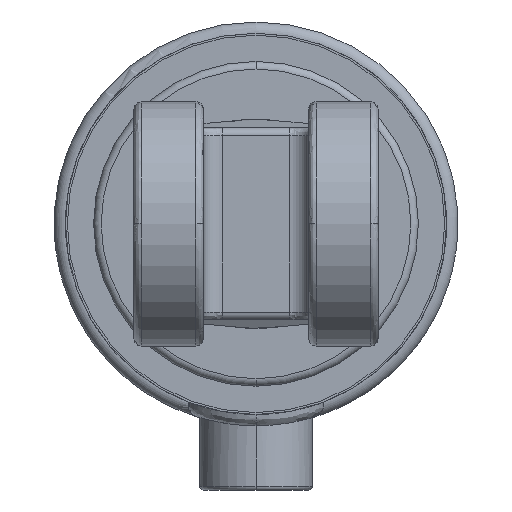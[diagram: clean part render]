
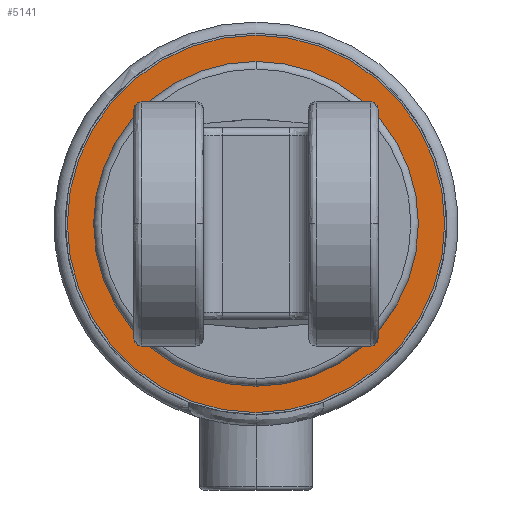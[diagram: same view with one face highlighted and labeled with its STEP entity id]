
A CAD part, left-side view. The second image highlights one B-rep face of the part: STEP entity #5141.
In plain terms, the highlighted planar face has unit normal (-1, 0, 0).
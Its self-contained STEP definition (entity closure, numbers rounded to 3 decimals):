
#20 = CIRCLE ( 'NONE', #10645, 50.2 ) ;
#219 = ORIENTED_EDGE ( 'NONE', *, *, #2458, .T. ) ;
#600 = PLANE ( 'NONE',  #2453 ) ;
#725 = EDGE_LOOP ( 'NONE', ( #3516, #219 ) ) ;
#1378 = DIRECTION ( 'NONE',  ( -1., 0., 0. ) ) ;
#1381 = FACE_OUTER_BOUND ( 'NONE', #725, .T. ) ;
#2322 = EDGE_CURVE ( 'NONE', #2443, #7911, #10193, .T. ) ;
#2362 = CARTESIAN_POINT ( 'NONE',  ( -367.005, 0., -43.2 ) ) ;
#2399 = DIRECTION ( 'NONE',  ( -1., 0., 0. ) ) ;
#2402 = VERTEX_POINT ( 'NONE', #4979 ) ;
#2443 = VERTEX_POINT ( 'NONE', #2362 ) ;
#2453 = AXIS2_PLACEMENT_3D ( 'NONE', #7806, #8672, #3438 ) ;
#2458 = EDGE_CURVE ( 'NONE', #2402, #3812, #20, .T. ) ;
#2621 = AXIS2_PLACEMENT_3D ( 'NONE', #4270, #10347, #5148 ) ;
#2761 = CIRCLE ( 'NONE', #6376, 43.2 ) ;
#3108 = DIRECTION ( 'NONE',  ( -1., 0., 0. ) ) ;
#3438 = DIRECTION ( 'NONE',  ( 0., 0., 1. ) ) ;
#3516 = ORIENTED_EDGE ( 'NONE', *, *, #10808, .T. ) ;
#3812 = VERTEX_POINT ( 'NONE', #10521 ) ;
#4270 = CARTESIAN_POINT ( 'NONE',  ( -367.005, 0., 0. ) ) ;
#4328 = ORIENTED_EDGE ( 'NONE', *, *, #10591, .F. ) ;
#4979 = CARTESIAN_POINT ( 'NONE',  ( -367.005, 0., -50.2 ) ) ;
#5141 = ADVANCED_FACE ( 'NONE', ( #1381, #10433 ), #600, .T. ) ;
#5148 = DIRECTION ( 'NONE',  ( 0., 0., 1. ) ) ;
#6376 = AXIS2_PLACEMENT_3D ( 'NONE', #8367, #3108, #9225 ) ;
#6461 = EDGE_LOOP ( 'NONE', ( #4328, #10915 ) ) ;
#6667 = CARTESIAN_POINT ( 'NONE',  ( -367.005, 0., 0. ) ) ;
#6991 = CARTESIAN_POINT ( 'NONE',  ( -367.005, 0., 43.2 ) ) ;
#7556 = DIRECTION ( 'NONE',  ( 0., 0., 1. ) ) ;
#7666 = CARTESIAN_POINT ( 'NONE',  ( -367.005, 0., 0. ) ) ;
#7806 = CARTESIAN_POINT ( 'NONE',  ( -367.005, 0., -50.2 ) ) ;
#7911 = VERTEX_POINT ( 'NONE', #6991 ) ;
#8327 = AXIS2_PLACEMENT_3D ( 'NONE', #6667, #1378, #7556 ) ;
#8367 = CARTESIAN_POINT ( 'NONE',  ( -367.005, 0., 0. ) ) ;
#8378 = CIRCLE ( 'NONE', #2621, 50.2 ) ;
#8543 = DIRECTION ( 'NONE',  ( 0., 0., 1. ) ) ;
#8672 = DIRECTION ( 'NONE',  ( -1., 0., 0. ) ) ;
#9225 = DIRECTION ( 'NONE',  ( 0., 0., 1. ) ) ;
#10193 = CIRCLE ( 'NONE', #8327, 43.2 ) ;
#10347 = DIRECTION ( 'NONE',  ( -1., 0., 0. ) ) ;
#10433 = FACE_BOUND ( 'NONE', #6461, .T. ) ;
#10521 = CARTESIAN_POINT ( 'NONE',  ( -367.005, 0., 50.2 ) ) ;
#10591 = EDGE_CURVE ( 'NONE', #7911, #2443, #2761, .T. ) ;
#10645 = AXIS2_PLACEMENT_3D ( 'NONE', #7666, #2399, #8543 ) ;
#10808 = EDGE_CURVE ( 'NONE', #3812, #2402, #8378, .T. ) ;
#10915 = ORIENTED_EDGE ( 'NONE', *, *, #2322, .F. ) ;
